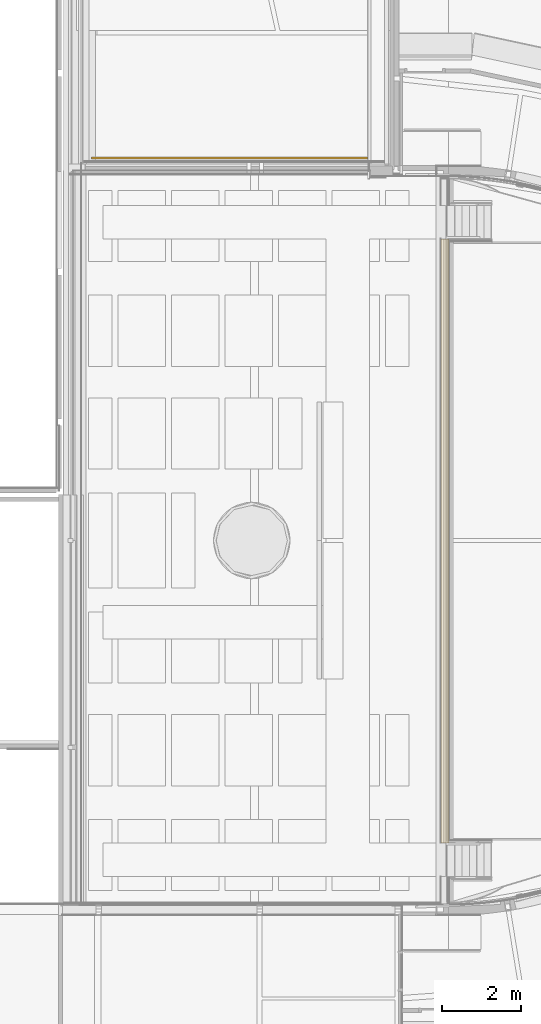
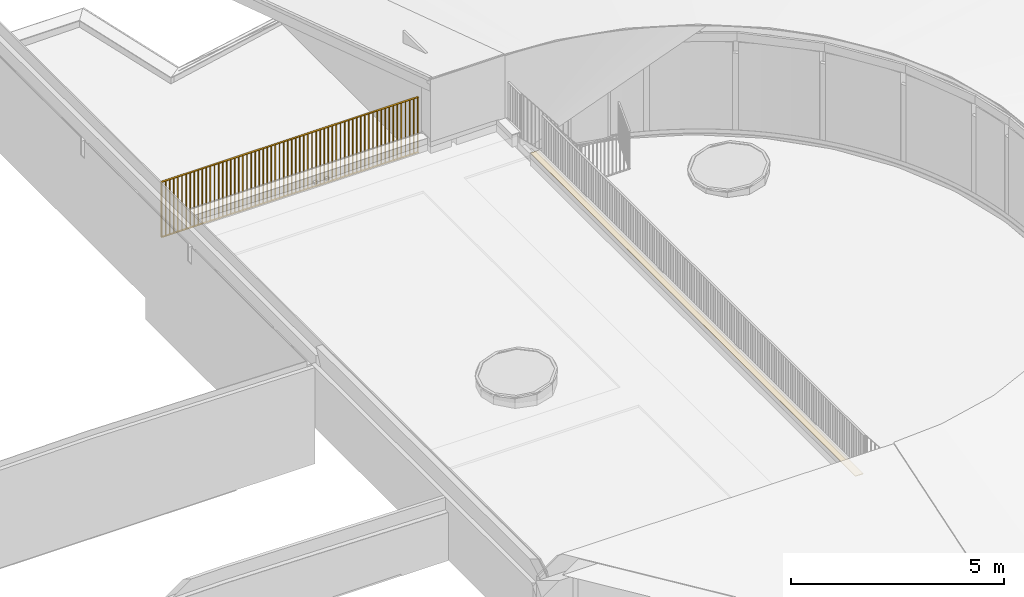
# One storey, part 58 of 66: 1 covering, 1 railing.
"""IFC2X3 building model written with IfcOpenShell, lengths in millimetres."""

from ifc_helpers import new_model, entity, si_unit, converted_unit, derived_unit, direction, frame, frame_2d, origin, place, context, subcontext, project, spatial, rectangle, extrude, material, material_list, layer, layer_set, layer_usage, type_object, element, save


model = new_model("IFC2X3")

# Units and contexts
model_context = context("Model", 3, precision=0.01, world=origin(), true_north=direction((6.12303176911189e-17, 1.0)))
body_context = subcontext(model_context, "Body", "Model", "MODEL_VIEW")
ifc_project = project(units=[si_unit("LENGTHUNIT", "METRE", prefix="MILLI"), si_unit("AREAUNIT", "SQUARE_METRE"), si_unit("VOLUMEUNIT", "CUBIC_METRE"), converted_unit("PLANEANGLEUNIT", "DEGREE", entity("IfcRatioMeasure", 0.0174532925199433), si_unit("PLANEANGLEUNIT", "RADIAN"), dimensions=[0, 0, 0, 0, 0, 0, 0]), si_unit("MASSUNIT", "GRAM", prefix="KILO"), derived_unit("MASSDENSITYUNIT", [(si_unit("MASSUNIT", "GRAM", prefix="KILO"), 1), (si_unit("LENGTHUNIT", "METRE"), -3)]), derived_unit("MOMENTOFINERTIAUNIT", [(si_unit("LENGTHUNIT", "METRE"), 4)]), si_unit("TIMEUNIT", "SECOND"), si_unit("FREQUENCYUNIT", "HERTZ"), si_unit("THERMODYNAMICTEMPERATUREUNIT", "DEGREE_CELSIUS"), derived_unit("THERMALTRANSMITTANCEUNIT", [(si_unit("MASSUNIT", "GRAM", prefix="KILO"), 1), (si_unit("THERMODYNAMICTEMPERATUREUNIT", "KELVIN"), -1), (si_unit("TIMEUNIT", "SECOND"), -3)]), derived_unit("VOLUMETRICFLOWRATEUNIT", [(si_unit("LENGTHUNIT", "METRE"), 3), (si_unit("TIMEUNIT", "SECOND"), -1)]), si_unit("ELECTRICCURRENTUNIT", "AMPERE"), si_unit("ELECTRICVOLTAGEUNIT", "VOLT"), si_unit("POWERUNIT", "WATT"), si_unit("FORCEUNIT", "NEWTON", prefix="KILO"), si_unit("ILLUMINANCEUNIT", "LUX"), si_unit("LUMINOUSFLUXUNIT", "LUMEN"), si_unit("LUMINOUSINTENSITYUNIT", "CANDELA"), derived_unit("USERDEFINED", [(si_unit("MASSUNIT", "GRAM", prefix="KILO"), -1), (si_unit("LENGTHUNIT", "METRE"), -2), (si_unit("TIMEUNIT", "SECOND"), 3), (si_unit("LUMINOUSFLUXUNIT", "LUMEN"), 1)]), derived_unit("LINEARVELOCITYUNIT", [(si_unit("LENGTHUNIT", "METRE"), 1), (si_unit("TIMEUNIT", "SECOND"), -1)]), si_unit("PRESSUREUNIT", "PASCAL"), derived_unit("USERDEFINED", [(si_unit("LENGTHUNIT", "METRE"), -2), (si_unit("MASSUNIT", "GRAM", prefix="KILO"), 1), (si_unit("TIMEUNIT", "SECOND"), -2)]), derived_unit("LINEARFORCEUNIT", [(si_unit("MASSUNIT", "GRAM", prefix="KILO"), 1), (si_unit("LENGTHUNIT", "METRE"), 1), (si_unit("TIMEUNIT", "SECOND"), -2), (si_unit("LENGTHUNIT", "METRE"), -1)]), derived_unit("PLANARFORCEUNIT", [(si_unit("MASSUNIT", "GRAM", prefix="KILO"), 1), (si_unit("LENGTHUNIT", "METRE"), 1), (si_unit("TIMEUNIT", "SECOND"), -2), (si_unit("LENGTHUNIT", "METRE"), -2)])], contexts=[model_context])

# Site, building, storey
site_placement = place(None, origin())
site = spatial("IfcSite", under=ifc_project, at=site_placement, Name="Default", CompositionType="ELEMENT")
building_placement = place(site_placement, origin())
building = spatial("IfcBuilding", under=site, at=building_placement, Name="-", CompositionType="ELEMENT")
storey_placement = place(building_placement, frame((0.0, 0.0, 3070.0)))
storey = spatial("IfcBuildingStorey", under=building, at=storey_placement, Name="01 eerste verdieping", CompositionType="ELEMENT", Elevation=3070.00000000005)

# Covering
ifc_material_1 = material(Name="NLRS_i4_hout_multiplex")
ifc_layer = layer(ifc_material_1, 15.0)
ifc_layer_set = layer_set([ifc_layer], Name="Floor:NLRS_44_FL_Multiplex 15mm")
ifc_layer_usage = layer_usage(ifc_layer_set, "AXIS3", "POSITIVE", 0.0)
covering_type = type_object("IfcCoveringType", Name="Floor:NLRS_44_FL_Multiplex 15mm", PredefinedType="FLOORING", material=ifc_layer_set)
covering_placement = place(storey_placement, origin())
element("IfcCovering", 1, at=covering_placement, inside=storey, type_object=covering_type, material=ifc_layer_usage, Name="Floor:NLRS_44_FL_Multiplex 15mm", ObjectType="Floor:NLRS_44_FL_Multiplex 15mm", PredefinedType="FLOORING", context=body_context, shape_type="SweptSolid", body=[
    extrude(rectangle(XDim=15250.0, YDim=212.000000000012, at=frame_2d((-2.27373675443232e-12, 4.33431068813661e-12), x_axis=(1.0, 0.0))), frame((50556.1203901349, 19605.9965964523, 1744.04321141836), z_axis=(0.0, 0.0, -1.0), x_axis=(0.0, 1.0, 0.0)), (0.0, 0.0, 1.0), 14.9999999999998),
])

# Railing
ifc_material_2 = material(Name="AL_Aluminium antraciet")
ifc_material_3 = material(Name="AL_Aluminium RAL 7021")
ifc_material_list = material_list([ifc_material_2, ifc_material_3])
railing_placement = place(storey_placement, origin())
element("IfcRailing", 2, at=railing_placement, inside=storey, material=ifc_material_list, Name="Railing:NLRS_34_RAI_UN_spijlen_gen_aly", ObjectType="Railing:NLRS_34_RAI_UN_spijlen_gen_aly", PredefinedType="NOTDEFINED", context=body_context, shape_type="SweptSolid", body=[
    extrude(rectangle(XDim=9.99999999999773, YDim=50.0000000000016, at=frame_2d((0.0, 2.16715534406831e-12), x_axis=(1.0, 0.0))), frame((41650.3418445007, 29271.7513632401, 1180.0), z_axis=(0.0, 0.0, 1.0), x_axis=(-1.0, 0.0, 0.0)), (0.0, 0.0, 1.0), 1577.0),
    extrude(rectangle(XDim=9.99999999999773, YDim=50.0000000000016, at=frame_2d((0.0, 2.16715534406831e-12), x_axis=(1.0, 0.0))), frame((41760.3418445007, 29271.7513632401, 1180.0), z_axis=(0.0, 0.0, 1.0), x_axis=(-1.0, 0.0, 0.0)), (0.0, 0.0, 1.0), 1577.0),
    extrude(rectangle(XDim=9.99999999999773, YDim=50.0000000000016, at=frame_2d((0.0, 2.16715534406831e-12), x_axis=(1.0, 0.0))), frame((41870.3418445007, 29271.7513632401, 1180.0), z_axis=(0.0, 0.0, 1.0), x_axis=(-1.0, 0.0, 0.0)), (0.0, 0.0, 1.0), 1577.0),
    extrude(rectangle(XDim=9.99999999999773, YDim=50.0000000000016, at=frame_2d((0.0, 2.16715534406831e-12), x_axis=(1.0, 0.0))), frame((41980.3418445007, 29271.7513632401, 1180.0), z_axis=(0.0, 0.0, 1.0), x_axis=(-1.0, 0.0, 0.0)), (0.0, 0.0, 1.0), 1577.0),
    extrude(rectangle(XDim=9.99999999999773, YDim=50.0000000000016, at=frame_2d((0.0, 2.16715534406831e-12), x_axis=(1.0, 0.0))), frame((42090.3418445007, 29271.7513632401, 1180.0), z_axis=(0.0, 0.0, 1.0), x_axis=(-1.0, 0.0, 0.0)), (0.0, 0.0, 1.0), 1577.0),
    extrude(rectangle(XDim=9.99999999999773, YDim=50.0000000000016, at=frame_2d((0.0, 2.16715534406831e-12), x_axis=(1.0, 0.0))), frame((42200.3418445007, 29271.7513632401, 1180.0), z_axis=(0.0, 0.0, 1.0), x_axis=(-1.0, 0.0, 0.0)), (0.0, 0.0, 1.0), 1577.0),
    extrude(rectangle(XDim=9.99999999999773, YDim=50.0000000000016, at=frame_2d((0.0, 2.16715534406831e-12), x_axis=(1.0, 0.0))), frame((42310.3418445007, 29271.7513632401, 1180.0), z_axis=(0.0, 0.0, 1.0), x_axis=(-1.0, 0.0, 0.0)), (0.0, 0.0, 1.0), 1577.0),
    extrude(rectangle(XDim=9.99999999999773, YDim=50.0000000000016, at=frame_2d((0.0, 2.16715534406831e-12), x_axis=(1.0, 0.0))), frame((42420.3418445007, 29271.7513632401, 1180.0), z_axis=(0.0, 0.0, 1.0), x_axis=(-1.0, 0.0, 0.0)), (0.0, 0.0, 1.0), 1577.0),
    extrude(rectangle(XDim=9.99999999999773, YDim=50.0000000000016, at=frame_2d((0.0, 2.16715534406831e-12), x_axis=(1.0, 0.0))), frame((42530.3418445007, 29271.7513632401, 1180.0), z_axis=(0.0, 0.0, 1.0), x_axis=(-1.0, 0.0, 0.0)), (0.0, 0.0, 1.0), 1577.0),
    extrude(rectangle(XDim=9.99999999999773, YDim=50.0000000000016, at=frame_2d((0.0, 2.16715534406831e-12), x_axis=(1.0, 0.0))), frame((42640.3418445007, 29271.7513632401, 1180.0), z_axis=(0.0, 0.0, 1.0), x_axis=(-1.0, 0.0, 0.0)), (0.0, 0.0, 1.0), 1577.0),
    extrude(rectangle(XDim=9.99999999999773, YDim=50.0000000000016, at=frame_2d((0.0, 2.16715534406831e-12), x_axis=(1.0, 0.0))), frame((42750.3418445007, 29271.7513632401, 1180.0), z_axis=(0.0, 0.0, 1.0), x_axis=(-1.0, 0.0, 0.0)), (0.0, 0.0, 1.0), 1577.0),
    extrude(rectangle(XDim=9.99999999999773, YDim=50.0000000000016, at=frame_2d((0.0, 2.16715534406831e-12), x_axis=(1.0, 0.0))), frame((42860.3418445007, 29271.7513632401, 1180.0), z_axis=(0.0, 0.0, 1.0), x_axis=(-1.0, 0.0, 0.0)), (0.0, 0.0, 1.0), 1577.0),
    extrude(rectangle(XDim=9.99999999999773, YDim=50.0000000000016, at=frame_2d((0.0, 2.16715534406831e-12), x_axis=(1.0, 0.0))), frame((42970.3418445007, 29271.7513632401, 1180.0), z_axis=(0.0, 0.0, 1.0), x_axis=(-1.0, 0.0, 0.0)), (0.0, 0.0, 1.0), 1577.0),
    extrude(rectangle(XDim=9.99999999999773, YDim=50.0000000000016, at=frame_2d((0.0, 2.16715534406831e-12), x_axis=(1.0, 0.0))), frame((43080.3418445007, 29271.7513632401, 1180.0), z_axis=(0.0, 0.0, 1.0), x_axis=(-1.0, 0.0, 0.0)), (0.0, 0.0, 1.0), 1577.0),
    extrude(rectangle(XDim=9.99999999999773, YDim=50.0000000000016, at=frame_2d((0.0, 2.16715534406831e-12), x_axis=(1.0, 0.0))), frame((43190.3418445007, 29271.7513632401, 1180.0), z_axis=(0.0, 0.0, 1.0), x_axis=(-1.0, 0.0, 0.0)), (0.0, 0.0, 1.0), 1577.0),
    extrude(rectangle(XDim=9.99999999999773, YDim=50.0000000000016, at=frame_2d((0.0, 2.16715534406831e-12), x_axis=(1.0, 0.0))), frame((43300.3418445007, 29271.7513632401, 1180.0), z_axis=(0.0, 0.0, 1.0), x_axis=(-1.0, 0.0, 0.0)), (0.0, 0.0, 1.0), 1577.0),
    extrude(rectangle(XDim=9.99999999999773, YDim=50.0000000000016, at=frame_2d((0.0, 2.16715534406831e-12), x_axis=(1.0, 0.0))), frame((43410.3418445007, 29271.7513632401, 1180.0), z_axis=(0.0, 0.0, 1.0), x_axis=(-1.0, 0.0, 0.0)), (0.0, 0.0, 1.0), 1577.0),
    extrude(rectangle(XDim=9.99999999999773, YDim=50.0000000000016, at=frame_2d((0.0, 2.16715534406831e-12), x_axis=(1.0, 0.0))), frame((43520.3418445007, 29271.7513632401, 1180.0), z_axis=(0.0, 0.0, 1.0), x_axis=(-1.0, 0.0, 0.0)), (0.0, 0.0, 1.0), 1577.0),
    extrude(rectangle(XDim=9.99999999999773, YDim=50.0000000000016, at=frame_2d((0.0, 2.16715534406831e-12), x_axis=(1.0, 0.0))), frame((43630.3418445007, 29271.7513632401, 1180.0), z_axis=(0.0, 0.0, 1.0), x_axis=(-1.0, 0.0, 0.0)), (0.0, 0.0, 1.0), 1577.0),
    extrude(rectangle(XDim=9.99999999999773, YDim=50.0000000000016, at=frame_2d((0.0, 2.16715534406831e-12), x_axis=(1.0, 0.0))), frame((43740.3418445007, 29271.7513632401, 1180.0), z_axis=(0.0, 0.0, 1.0), x_axis=(-1.0, 0.0, 0.0)), (0.0, 0.0, 1.0), 1577.0),
    extrude(rectangle(XDim=9.99999999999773, YDim=50.0000000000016, at=frame_2d((0.0, 2.16715534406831e-12), x_axis=(1.0, 0.0))), frame((43850.3418445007, 29271.7513632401, 1180.0), z_axis=(0.0, 0.0, 1.0), x_axis=(-1.0, 0.0, 0.0)), (0.0, 0.0, 1.0), 1577.0),
    extrude(rectangle(XDim=9.99999999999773, YDim=50.0000000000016, at=frame_2d((0.0, 2.16715534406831e-12), x_axis=(1.0, 0.0))), frame((43960.3418445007, 29271.7513632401, 1180.0), z_axis=(0.0, 0.0, 1.0), x_axis=(-1.0, 0.0, 0.0)), (0.0, 0.0, 1.0), 1577.0),
    extrude(rectangle(XDim=9.99999999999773, YDim=50.0000000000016, at=frame_2d((0.0, 2.16715534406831e-12), x_axis=(1.0, 0.0))), frame((44070.3418445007, 29271.7513632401, 1180.0), z_axis=(0.0, 0.0, 1.0), x_axis=(-1.0, 0.0, 0.0)), (0.0, 0.0, 1.0), 1577.0),
    extrude(rectangle(XDim=9.99999999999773, YDim=50.0000000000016, at=frame_2d((0.0, 2.16715534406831e-12), x_axis=(1.0, 0.0))), frame((44180.3418445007, 29271.7513632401, 1180.0), z_axis=(0.0, 0.0, 1.0), x_axis=(-1.0, 0.0, 0.0)), (0.0, 0.0, 1.0), 1577.0),
    extrude(rectangle(XDim=9.99999999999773, YDim=50.0000000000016, at=frame_2d((0.0, 2.16715534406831e-12), x_axis=(1.0, 0.0))), frame((44290.3418445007, 29271.7513632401, 1180.0), z_axis=(0.0, 0.0, 1.0), x_axis=(-1.0, 0.0, 0.0)), (0.0, 0.0, 1.0), 1577.0),
    extrude(rectangle(XDim=9.99999999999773, YDim=50.0000000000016, at=frame_2d((0.0, 2.16715534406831e-12), x_axis=(1.0, 0.0))), frame((44400.3418445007, 29271.7513632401, 1180.0), z_axis=(0.0, 0.0, 1.0), x_axis=(-1.0, 0.0, 0.0)), (0.0, 0.0, 1.0), 1577.0),
    extrude(rectangle(XDim=9.99999999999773, YDim=50.0000000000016, at=frame_2d((0.0, 2.16715534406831e-12), x_axis=(1.0, 0.0))), frame((44510.3418445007, 29271.7513632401, 1180.0), z_axis=(0.0, 0.0, 1.0), x_axis=(-1.0, 0.0, 0.0)), (0.0, 0.0, 1.0), 1577.0),
    extrude(rectangle(XDim=9.99999999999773, YDim=50.0000000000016, at=frame_2d((0.0, 2.16715534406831e-12), x_axis=(1.0, 0.0))), frame((44620.3418445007, 29271.7513632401, 1180.0), z_axis=(0.0, 0.0, 1.0), x_axis=(-1.0, 0.0, 0.0)), (0.0, 0.0, 1.0), 1577.0),
    extrude(rectangle(XDim=9.99999999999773, YDim=50.0000000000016, at=frame_2d((0.0, 2.16715534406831e-12), x_axis=(1.0, 0.0))), frame((44730.3418445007, 29271.7513632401, 1180.0), z_axis=(0.0, 0.0, 1.0), x_axis=(-1.0, 0.0, 0.0)), (0.0, 0.0, 1.0), 1577.0),
    extrude(rectangle(XDim=9.99999999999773, YDim=50.0000000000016, at=frame_2d((0.0, 2.16715534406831e-12), x_axis=(1.0, 0.0))), frame((44840.3418445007, 29271.7513632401, 1180.0), z_axis=(0.0, 0.0, 1.0), x_axis=(-1.0, 0.0, 0.0)), (0.0, 0.0, 1.0), 1577.0),
    extrude(rectangle(XDim=9.99999999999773, YDim=50.0000000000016, at=frame_2d((0.0, 2.16715534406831e-12), x_axis=(1.0, 0.0))), frame((44950.3418445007, 29271.7513632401, 1180.0), z_axis=(0.0, 0.0, 1.0), x_axis=(-1.0, 0.0, 0.0)), (0.0, 0.0, 1.0), 1577.0),
    extrude(rectangle(XDim=9.99999999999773, YDim=50.0000000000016, at=frame_2d((0.0, 2.16715534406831e-12), x_axis=(1.0, 0.0))), frame((45060.3418445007, 29271.7513632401, 1180.0), z_axis=(0.0, 0.0, 1.0), x_axis=(-1.0, 0.0, 0.0)), (0.0, 0.0, 1.0), 1577.0),
    extrude(rectangle(XDim=9.99999999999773, YDim=50.0000000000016, at=frame_2d((0.0, 2.16715534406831e-12), x_axis=(1.0, 0.0))), frame((45170.3418445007, 29271.7513632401, 1180.0), z_axis=(0.0, 0.0, 1.0), x_axis=(-1.0, 0.0, 0.0)), (0.0, 0.0, 1.0), 1577.0),
    extrude(rectangle(XDim=9.99999999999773, YDim=50.0000000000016, at=frame_2d((0.0, 2.16715534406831e-12), x_axis=(1.0, 0.0))), frame((45280.3418445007, 29271.7513632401, 1180.0), z_axis=(0.0, 0.0, 1.0), x_axis=(-1.0, 0.0, 0.0)), (0.0, 0.0, 1.0), 1577.0),
    extrude(rectangle(XDim=9.99999999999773, YDim=50.0000000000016, at=frame_2d((0.0, 2.16715534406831e-12), x_axis=(1.0, 0.0))), frame((45390.3418445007, 29271.7513632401, 1180.0), z_axis=(0.0, 0.0, 1.0), x_axis=(-1.0, 0.0, 0.0)), (0.0, 0.0, 1.0), 1577.0),
    extrude(rectangle(XDim=9.99999999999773, YDim=50.0000000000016, at=frame_2d((0.0, 2.16715534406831e-12), x_axis=(1.0, 0.0))), frame((45500.3418445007, 29271.7513632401, 1180.0), z_axis=(0.0, 0.0, 1.0), x_axis=(-1.0, 0.0, 0.0)), (0.0, 0.0, 1.0), 1577.0),
    extrude(rectangle(XDim=9.99999999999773, YDim=50.0000000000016, at=frame_2d((0.0, 2.16715534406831e-12), x_axis=(1.0, 0.0))), frame((45610.3418445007, 29271.7513632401, 1180.0), z_axis=(0.0, 0.0, 1.0), x_axis=(-1.0, 0.0, 0.0)), (0.0, 0.0, 1.0), 1577.0),
    extrude(rectangle(XDim=9.99999999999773, YDim=50.0000000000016, at=frame_2d((0.0, 2.16715534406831e-12), x_axis=(1.0, 0.0))), frame((45720.3418445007, 29271.7513632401, 1180.0), z_axis=(0.0, 0.0, 1.0), x_axis=(-1.0, 0.0, 0.0)), (0.0, 0.0, 1.0), 1577.0),
    extrude(rectangle(XDim=9.99999999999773, YDim=50.0000000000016, at=frame_2d((0.0, 2.16715534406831e-12), x_axis=(1.0, 0.0))), frame((45830.3418445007, 29271.7513632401, 1180.0), z_axis=(0.0, 0.0, 1.0), x_axis=(-1.0, 0.0, 0.0)), (0.0, 0.0, 1.0), 1577.0),
    extrude(rectangle(XDim=9.99999999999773, YDim=50.0000000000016, at=frame_2d((0.0, 2.16715534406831e-12), x_axis=(1.0, 0.0))), frame((45940.3418445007, 29271.7513632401, 1180.0), z_axis=(0.0, 0.0, 1.0), x_axis=(-1.0, 0.0, 0.0)), (0.0, 0.0, 1.0), 1577.0),
    extrude(rectangle(XDim=9.99999999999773, YDim=50.0000000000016, at=frame_2d((0.0, 2.16715534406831e-12), x_axis=(1.0, 0.0))), frame((46050.3418445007, 29271.7513632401, 1180.0), z_axis=(0.0, 0.0, 1.0), x_axis=(-1.0, 0.0, 0.0)), (0.0, 0.0, 1.0), 1577.0),
    extrude(rectangle(XDim=9.99999999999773, YDim=50.0000000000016, at=frame_2d((0.0, 2.16715534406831e-12), x_axis=(1.0, 0.0))), frame((46160.3418445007, 29271.7513632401, 1180.0), z_axis=(0.0, 0.0, 1.0), x_axis=(-1.0, 0.0, 0.0)), (0.0, 0.0, 1.0), 1577.0),
    extrude(rectangle(XDim=9.99999999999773, YDim=50.0000000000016, at=frame_2d((0.0, 2.16715534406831e-12), x_axis=(1.0, 0.0))), frame((46270.3418445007, 29271.7513632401, 1180.0), z_axis=(0.0, 0.0, 1.0), x_axis=(-1.0, 0.0, 0.0)), (0.0, 0.0, 1.0), 1577.0),
    extrude(rectangle(XDim=9.99999999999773, YDim=50.0000000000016, at=frame_2d((0.0, 2.16715534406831e-12), x_axis=(1.0, 0.0))), frame((46380.3418445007, 29271.7513632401, 1180.0), z_axis=(0.0, 0.0, 1.0), x_axis=(-1.0, 0.0, 0.0)), (0.0, 0.0, 1.0), 1577.0),
    extrude(rectangle(XDim=9.99999999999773, YDim=50.0000000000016, at=frame_2d((0.0, 2.16715534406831e-12), x_axis=(1.0, 0.0))), frame((46490.3418445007, 29271.7513632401, 1180.0), z_axis=(0.0, 0.0, 1.0), x_axis=(-1.0, 0.0, 0.0)), (0.0, 0.0, 1.0), 1577.0),
    extrude(rectangle(XDim=9.99999999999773, YDim=50.0000000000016, at=frame_2d((0.0, 2.16715534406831e-12), x_axis=(1.0, 0.0))), frame((46600.3418445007, 29271.7513632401, 1180.0), z_axis=(0.0, 0.0, 1.0), x_axis=(-1.0, 0.0, 0.0)), (0.0, 0.0, 1.0), 1577.0),
    extrude(rectangle(XDim=9.99999999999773, YDim=50.0000000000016, at=frame_2d((0.0, 2.16715534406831e-12), x_axis=(1.0, 0.0))), frame((46710.3418445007, 29271.7513632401, 1180.0), z_axis=(0.0, 0.0, 1.0), x_axis=(-1.0, 0.0, 0.0)), (0.0, 0.0, 1.0), 1577.0),
    extrude(rectangle(XDim=9.99999999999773, YDim=50.0000000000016, at=frame_2d((0.0, 2.16715534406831e-12), x_axis=(1.0, 0.0))), frame((46820.3418445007, 29271.7513632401, 1180.0), z_axis=(0.0, 0.0, 1.0), x_axis=(-1.0, 0.0, 0.0)), (0.0, 0.0, 1.0), 1577.0),
    extrude(rectangle(XDim=9.99999999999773, YDim=50.0000000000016, at=frame_2d((0.0, 2.16715534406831e-12), x_axis=(1.0, 0.0))), frame((46930.3418445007, 29271.7513632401, 1180.0), z_axis=(0.0, 0.0, 1.0), x_axis=(-1.0, 0.0, 0.0)), (0.0, 0.0, 1.0), 1577.0),
    extrude(rectangle(XDim=9.99999999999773, YDim=50.0000000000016, at=frame_2d((0.0, 2.16715534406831e-12), x_axis=(1.0, 0.0))), frame((47040.3418445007, 29271.7513632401, 1180.0), z_axis=(0.0, 0.0, 1.0), x_axis=(-1.0, 0.0, 0.0)), (0.0, 0.0, 1.0), 1577.0),
    extrude(rectangle(XDim=9.99999999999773, YDim=50.0000000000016, at=frame_2d((0.0, 2.16715534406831e-12), x_axis=(1.0, 0.0))), frame((47150.3418445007, 29271.7513632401, 1180.0), z_axis=(0.0, 0.0, 1.0), x_axis=(-1.0, 0.0, 0.0)), (0.0, 0.0, 1.0), 1577.0),
    extrude(rectangle(XDim=9.99999999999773, YDim=50.0000000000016, at=frame_2d((0.0, 2.16715534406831e-12), x_axis=(1.0, 0.0))), frame((47260.3418445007, 29271.7513632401, 1180.0), z_axis=(0.0, 0.0, 1.0), x_axis=(-1.0, 0.0, 0.0)), (0.0, 0.0, 1.0), 1577.0),
    extrude(rectangle(XDim=9.99999999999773, YDim=50.0000000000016, at=frame_2d((0.0, 2.16715534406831e-12), x_axis=(1.0, 0.0))), frame((47370.3418445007, 29271.7513632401, 1180.0), z_axis=(0.0, 0.0, 1.0), x_axis=(-1.0, 0.0, 0.0)), (0.0, 0.0, 1.0), 1577.0),
    extrude(rectangle(XDim=9.99999999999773, YDim=50.0000000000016, at=frame_2d((0.0, 2.16715534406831e-12), x_axis=(1.0, 0.0))), frame((47480.3418445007, 29271.7513632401, 1180.0), z_axis=(0.0, 0.0, 1.0), x_axis=(-1.0, 0.0, 0.0)), (0.0, 0.0, 1.0), 1577.0),
    extrude(rectangle(XDim=9.99999999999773, YDim=50.0000000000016, at=frame_2d((0.0, 2.16715534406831e-12), x_axis=(1.0, 0.0))), frame((47590.3418445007, 29271.7513632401, 1180.0), z_axis=(0.0, 0.0, 1.0), x_axis=(-1.0, 0.0, 0.0)), (0.0, 0.0, 1.0), 1577.0),
    extrude(rectangle(XDim=9.99999999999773, YDim=50.0000000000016, at=frame_2d((0.0, 2.16715534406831e-12), x_axis=(1.0, 0.0))), frame((47700.3418445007, 29271.7513632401, 1180.0), z_axis=(0.0, 0.0, 1.0), x_axis=(-1.0, 0.0, 0.0)), (0.0, 0.0, 1.0), 1577.0),
    extrude(rectangle(XDim=9.99999999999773, YDim=50.0000000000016, at=frame_2d((0.0, 2.16715534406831e-12), x_axis=(1.0, 0.0))), frame((47810.3418445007, 29271.7513632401, 1180.0), z_axis=(0.0, 0.0, 1.0), x_axis=(-1.0, 0.0, 0.0)), (0.0, 0.0, 1.0), 1577.0),
    extrude(rectangle(XDim=9.99999999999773, YDim=50.0000000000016, at=frame_2d((0.0, 2.16715534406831e-12), x_axis=(1.0, 0.0))), frame((47920.3418445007, 29271.7513632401, 1180.0), z_axis=(0.0, 0.0, 1.0), x_axis=(-1.0, 0.0, 0.0)), (0.0, 0.0, 1.0), 1577.0),
    extrude(rectangle(XDim=9.99999999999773, YDim=50.0000000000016, at=frame_2d((0.0, 2.16715534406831e-12), x_axis=(1.0, 0.0))), frame((48030.3418445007, 29271.7513632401, 1180.0), z_axis=(0.0, 0.0, 1.0), x_axis=(-1.0, 0.0, 0.0)), (0.0, 0.0, 1.0), 1577.0),
    extrude(rectangle(XDim=9.99999999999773, YDim=50.0000000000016, at=frame_2d((0.0, 2.16715534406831e-12), x_axis=(1.0, 0.0))), frame((48140.3418445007, 29271.7513632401, 1180.0), z_axis=(0.0, 0.0, 1.0), x_axis=(-1.0, 0.0, 0.0)), (0.0, 0.0, 1.0), 1577.0),
    extrude(rectangle(XDim=9.99999999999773, YDim=50.0000000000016, at=frame_2d((0.0, 2.16715534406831e-12), x_axis=(1.0, 0.0))), frame((48250.3418445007, 29271.7513632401, 1180.0), z_axis=(0.0, 0.0, 1.0), x_axis=(-1.0, 0.0, 0.0)), (0.0, 0.0, 1.0), 1577.0),
    extrude(rectangle(XDim=9.99999999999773, YDim=50.0000000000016, at=frame_2d((0.0, 2.16715534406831e-12), x_axis=(1.0, 0.0))), frame((48360.3418445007, 29271.7513632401, 1180.0), z_axis=(0.0, 0.0, 1.0), x_axis=(-1.0, 0.0, 0.0)), (0.0, 0.0, 1.0), 1577.0),
    extrude(rectangle(XDim=9.99999999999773, YDim=50.0000000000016, at=frame_2d((0.0, 2.16715534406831e-12), x_axis=(1.0, 0.0))), frame((48470.3418445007, 29271.7513632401, 1180.0), z_axis=(0.0, 0.0, 1.0), x_axis=(-1.0, 0.0, 0.0)), (0.0, 0.0, 1.0), 1577.0),
    extrude(rectangle(XDim=9.99999999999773, YDim=50.0000000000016, at=frame_2d((0.0, 2.16715534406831e-12), x_axis=(1.0, 0.0))), frame((48580.3418445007, 29271.7513632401, 1180.0), z_axis=(0.0, 0.0, 1.0), x_axis=(-1.0, 0.0, 0.0)), (0.0, 0.0, 1.0), 1577.0),
    extrude(rectangle(XDim=9.99999999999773, YDim=24.9999999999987, at=frame_2d((0.0, -2.16626716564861e-12), x_axis=(1.0, 0.0))), frame((41635.3418445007, 29271.7513632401, 1180.0), z_axis=(0.0, 0.0, 1.0), x_axis=(-1.0, 0.0, 0.0)), (0.0, 0.0, 1.0), 1577.0),
    extrude(rectangle(XDim=9.99999999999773, YDim=24.9999999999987, at=frame_2d((0.0, -2.16626716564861e-12), x_axis=(1.0, 0.0))), frame((48595.3418445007, 29271.7513632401, 1180.0), z_axis=(0.0, 0.0, 1.0), x_axis=(-1.0, 0.0, 0.0)), (0.0, 0.0, 1.0), 1577.0),
    extrude(rectangle(XDim=6960.0, YDim=50.0000000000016, at=frame_2d((4.32009983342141e-12, -2.16715534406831e-12), x_axis=(1.0, 0.0))), frame((45115.3418445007, 29271.7513632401, 2752.0), z_axis=(0.0, 0.0, 1.0), x_axis=(-1.0, 0.0, 0.0)), (0.0, 0.0, 1.0), 14.9999999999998),
    extrude(rectangle(XDim=6960.0, YDim=50.0000000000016, at=frame_2d((4.32009983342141e-12, -2.16715534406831e-12), x_axis=(1.0, 0.0))), frame((45115.3418445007, 29271.7513632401, 1175.0), z_axis=(0.0, 0.0, 1.0), x_axis=(-1.0, 0.0, 0.0)), (0.0, 0.0, 1.0), 14.9999999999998),
])

save(model, "model.ifc")
